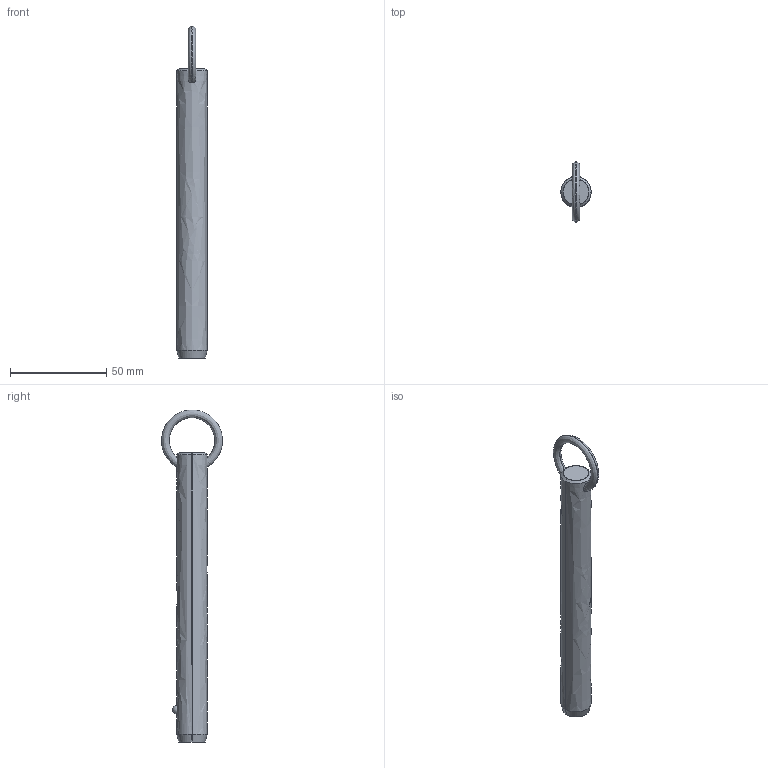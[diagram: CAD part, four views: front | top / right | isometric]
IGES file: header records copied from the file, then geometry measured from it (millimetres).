
Start section: SolidWorks IGES file using analytic representation for surfaces
Global section: file name: C:\Users\liam_\OneDrive\Documents\WORK\Work for WixRoyd\Job Files\J-00019 - Matt Davis CAD Checking\04. CAD Drawings\automotion20190605\P1250.2_v2\P1250.2_v2_20190729_IGES\P1250.062-480.igs; native system: SolidWorks 2017; preprocessor: SolidWorks 2017; author: liam_; date: 190729.233844; units: millimetre
Bounding box: 15.8 x 31.7 x 172.59 mm (x, y, z)
Surface area: 8639.3 mm2 (no closed solid volume)
Topology: 0 solids, 0 shells, 12 faces, 292 edges, 290 vertices
Faces by surface type: revolution 8, bspline 4
